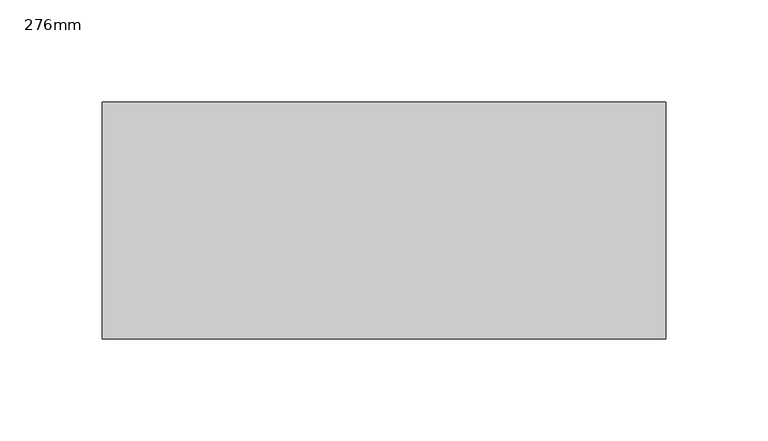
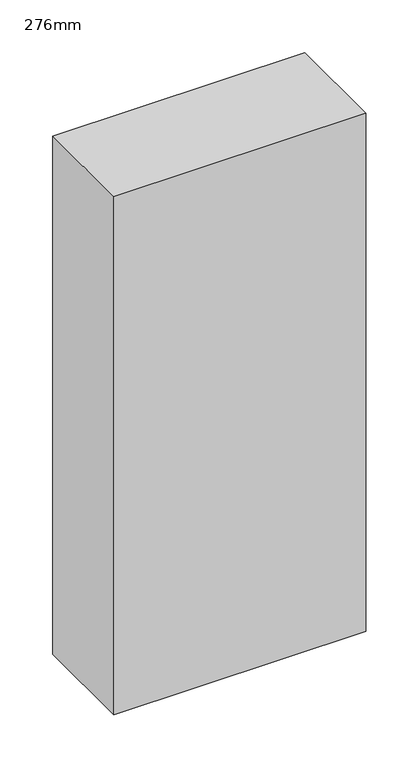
"""IFC4 building model written with IfcOpenShell, lengths in millimetres: proxy geometry, HVAC_Heaters_Zeppelin-Rental-GmbH_276 : 276mm."""

from ifc_helpers import new_model, si_unit, frame, origin, place, context, project, spatial, polyline, outline, extrude, source, transform, mapped, element, save


def proxy_276mm_b661f6a0(model_context):
    return source(origin(), model_context, "Body", "SweptSolid", [
        extrude(outline(polyline([(263.0, -168.0), (-13.0, -168.0), (-13.0, -52.0), (263.0, -52.0), (263.0, -168.0)])), frame((0.0, 0.0, 160.0), z_axis=(0.0, 0.0, 1.0), x_axis=(1.0, 0.0, 0.0)), (0.0, 0.0, 1.0), 600.0),
    ])


if __name__ == "__main__":
    model = new_model("IFC4")
    model_context = context("Model", 3, world=origin())
    ifc_project = project(units=[si_unit("LENGTHUNIT", "METRE", prefix="MILLI")], contexts=[model_context])
    site = spatial("IfcSite", under=ifc_project)
    building = spatial("IfcBuilding", under=site)
    placement = place(None, origin())
    proxy_276mm_shape = proxy_276mm_b661f6a0(model_context)
    element("IfcBuildingElementProxy", 1, Name="HVAC_Heaters_Zeppelin-Rental-GmbH_276 : 276mm", ObjectType="HVAC_Heaters_Zeppelin-Rental-GmbH_276 : 276mm", at=placement, inside=building, context=model_context, shape_type="MappedRepresentation", body=[
        mapped(proxy_276mm_shape, transform((0.0, 0.0, 0.0), x_axis=(1.0, 0.0, 0.0), y_axis=(0.0, 1.0, 0.0), z_axis=(0.0, 0.0, 1.0))),
    ])
    save(model, "model.ifc")
